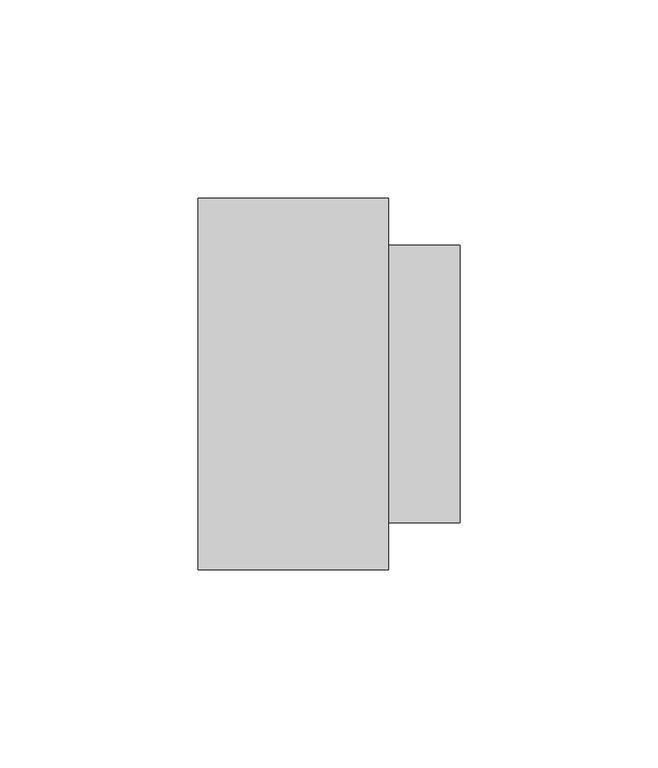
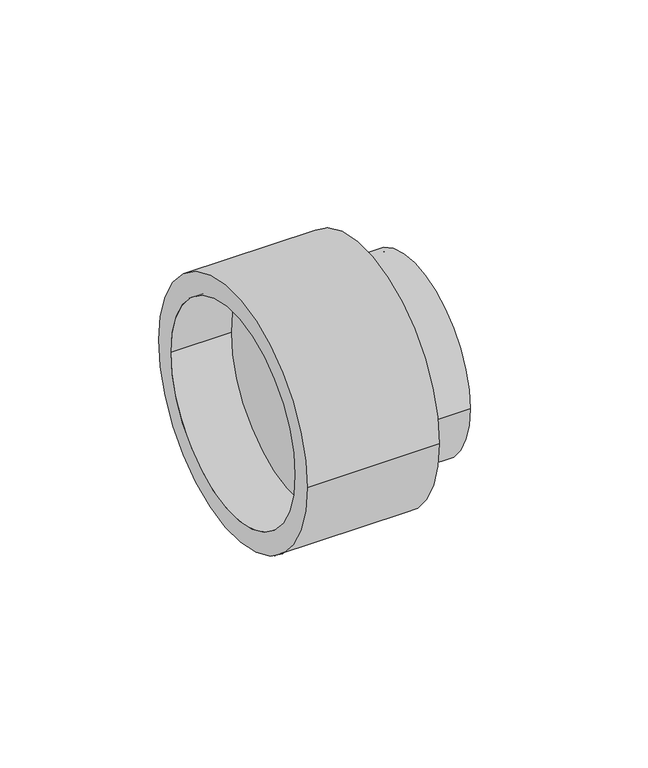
"""IFC4 building model written with IfcOpenShell, lengths in millimetres: pipe fitting geometry, NLRS_52_PIF_UN_PE overgangsmanchet op gietijzer, met steunring_geb : DN50-125 / ø50-125."""

from ifc_helpers import new_model, si_unit, point, frame, origin, origin_2d, place, context, project, spatial, polyline, circle_curve, trimmed, segment, composite_curve, outline, extrude, source, transform, mapped, element, save
from ifc_brep_helpers import plane_surface, cylinder_surface, revolved_surface, advanced_brep


def pipe_fitting_92d443f0(model_context):
    return source(origin(), model_context, "Body", "SolidModel", [
        advanced_brep(
        [(24.0, -46.8, 0.0), (24.0, 46.8, 0.0), (24.0, 37.5, 0.0), (24.0, -37.5, 0.0), (-24.0, -46.8, 0.0), (-24.0, 46.8, 0.0), (-24.0, -39.0, 0.0), (-24.0, 39.0, 0.0), (2.0, -37.5, 0.0), (2.0, 37.5, 0.0), (-2.0, -39.0, 0.0), (-2.0, 39.0, 0.0)],
        [
            (0, 1, circle_curve(frame((24.0, 0.0, 0.0), z_axis=(1.0, 0.0, 0.0), x_axis=(0.0, 1.0, 0.0)), 46.8)),
            (1, 0, circle_curve(frame((24.0, 0.0, 0.0), z_axis=(1.0, 0.0, 0.0), x_axis=(0.0, 1.0, 0.0)), 46.8)),
            (2, 3, circle_curve(frame((24.0, 0.0, 0.0), z_axis=(-1.0, 0.0, 0.0), x_axis=(0.0, 1.0, 0.0)), 37.5)),
            (3, 2, circle_curve(frame((24.0, 0.0, 0.0), z_axis=(-1.0, 0.0, 0.0), x_axis=(0.0, 1.0, 0.0)), 37.5)),
            (4, 5, circle_curve(frame((-24.0, 0.0, 0.0), z_axis=(-1.0, 0.0, 0.0), x_axis=(0.0, 1.0, 0.0)), 46.8)),
            (5, 4, circle_curve(frame((-24.0, 0.0, 0.0), z_axis=(-1.0, 0.0, 0.0), x_axis=(0.0, 1.0, 0.0)), 46.8)),
            (6, 7, circle_curve(frame((-24.0, 0.0, 0.0), z_axis=(1.0, 0.0, 0.0), x_axis=(0.0, 1.0, 0.0)), 39.0)),
            (7, 6, circle_curve(frame((-24.0, 0.0, 0.0), z_axis=(1.0, 0.0, 0.0), x_axis=(0.0, 1.0, 0.0)), 39.0)),
            (0, 4),
            (5, 1),
            (8, 9, circle_curve(frame((2.0, 0.0, 0.0), z_axis=(1.0, 0.0, 0.0), x_axis=(0.0, 1.0, 0.0)), 37.5)),
            (9, 8, circle_curve(frame((2.0, 0.0, 0.0), z_axis=(1.0, 0.0, 0.0), x_axis=(0.0, 1.0, 0.0)), 37.5)),
            (8, 3),
            (2, 9),
            (10, 11, circle_curve(frame((-2.0, 0.0, 0.0), z_axis=(-1.0, 0.0, 0.0), x_axis=(0.0, 1.0, 0.0)), 39.0)),
            (11, 10, circle_curve(frame((-2.0, 0.0, 0.0), z_axis=(-1.0, 0.0, 0.0), x_axis=(0.0, 1.0, 0.0)), 39.0)),
            (11, 7),
            (6, 10),
        ],
        [
            plane_surface(frame((24.0, 46.8, 0.0), z_axis=(1.0, 0.0, 0.0), x_axis=(0.0, 0.0, 1.0))),
            plane_surface(frame((-24.0, 46.8, 0.0), z_axis=(-1.0, 0.0, 0.0), x_axis=(0.0, 0.0, -1.0))),
            cylinder_surface(frame((-24.0, 0.0, 0.0), z_axis=(1.0, 0.0, 0.0), x_axis=(0.0, 1.0, 0.0)), 46.8),
            plane_surface(frame((2.0, 37.5, 0.0), z_axis=(1.0, 0.0, 0.0), x_axis=(0.0, 0.0, -1.0))),
            revolved_surface(polyline([(24.0, 37.5, 0.0), (2.0, 37.5, 0.0)]), (2.0, 0.0, 0.0), (1.0, 0.0, 0.0)),
            plane_surface(frame((-2.0, 39.0, 0.0), z_axis=(-1.0, 0.0, 0.0), x_axis=(0.0, 0.0, 1.0))),
            revolved_surface(polyline([(-2.0, 39.0, 0.0), (-24.0, 39.0, 0.0)]), (-24.0, 0.0, 0.0), (1.0, 0.0, 0.0)),
        ],
        [
            (0, [[1, 2], [3, 4]]),
            (1, [[5, 6], [7, 8]]),
            (2, [[-1, 9, -6, 10]]),
            (2, [[-2, -10, -5, -9]]),
            (3, [[11, 12]]),
            (4, [[-11, 13, -3, 14]]),
            (4, [[-12, -14, -4, -13]]),
            (5, [[15, 16]]),
            (6, [[-16, 17, -7, 18]]),
            (6, [[-15, -18, -8, -17]]),
        ],
    ),
        extrude(outline(composite_curve([segment(trimmed(circle_curve(origin_2d(), 35.0), [point((-35.0, 0.0))], [point((35.0, 0.0))], False, "CARTESIAN"), True, "CONTINUOUS"), segment(trimmed(circle_curve(origin_2d(), 35.0), [point((35.0, 0.0))], [point((-35.0, 0.0))], False, "CARTESIAN"), True, "CONTINUOUS")], self_intersect=False), holes=[composite_curve([segment(trimmed(circle_curve(origin_2d(), 33.5), [point((-33.5, 0.0))], [point((33.5, 0.0))], True, "CARTESIAN"), True, "CONTINUOUS"), segment(trimmed(circle_curve(origin_2d(), 33.5), [point((33.5, 0.0))], [point((-33.5, 0.0))], True, "CARTESIAN"), True, "CONTINUOUS")], self_intersect=False)]), frame((2.0, 0.0, 0.0), z_axis=(1.0, 0.0, 0.0), x_axis=(0.0, 1.0, 0.0)), (0.0, 0.0, 1.0), 40.0),
    ])


if __name__ == "__main__":
    model = new_model("IFC4")
    model_context = context("Model", 3, world=origin())
    ifc_project = project(units=[si_unit("LENGTHUNIT", "METRE", prefix="MILLI")], contexts=[model_context])
    site = spatial("IfcSite", under=ifc_project)
    building = spatial("IfcBuilding", under=site)
    placement = place(None, origin())
    pipe_fitting_shape = pipe_fitting_92d443f0(model_context)
    element("IfcPipeFitting", 1, ObjectType="NLRS_52_PIF_UN_PE overgangsmanchet op gietijzer, met steunring_geb : DN50-125 / ø50-125", at=placement, inside=building, context=model_context, shape_type="MappedRepresentation", body=[
        mapped(pipe_fitting_shape, transform((0.0, 0.0, 0.0), x_axis=(1.0, 0.0, 0.0), y_axis=(0.0, 1.0, 0.0), z_axis=(0.0, 0.0, 1.0))),
    ])
    save(model, "model.ifc")
